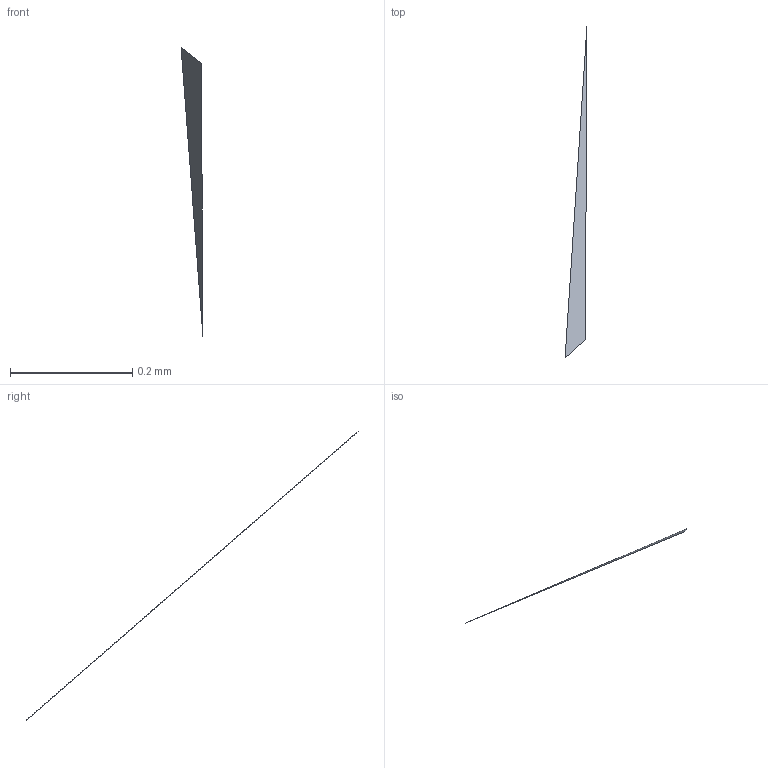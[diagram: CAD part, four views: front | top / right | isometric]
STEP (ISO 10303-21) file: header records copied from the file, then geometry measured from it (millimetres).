
FILE_DESCRIPTION(/* description */ ('STEP AP242 Edition 2','CAx-IF Rec.Pracs.---Representation and Presentation of Product Manufacturing Information (PMI)---4.0---2014-10-13','CAx-IF Rec.Pracs.---3D Tessellated Geometry---0.4---2014-09-14','2;1','CAx-IF Rec.Pracs.---User Defined Attributes---1.5---2016-08-15'),/* implementation_level */ '2;1');
FILE_NAME(/* name */ 'Assembly 1 - Part 108',/* time_stamp */ '2026-03-29T21:14:56Z',/* author */ (''),/* organization */ (''),/* preprocessor_version */ 'ST-DEVELOPER v20',/* originating_system */ 'ONSHAPE BY PTC INC, 1.212',/* authorisation */ ' ');
FILE_SCHEMA (('AP242_MANAGED_MODEL_BASED_3D_ENGINEERING_MIM_LF { 1 0 10303 442 3 1 4 }'));
Length unit declared in the file: metre
Products named in the file (1): Part 108
Bounding box: 0.04 x 0.54 x 0.47 mm (x, y, z)
Surface area: 0 mm2 (no closed solid volume)
Topology: 0 solids, 1 shells, 1 faces, 0 edges, 0 vertices
Faces by surface type: other 1
Entity records: 31 total; most frequent: DIRECTION 2, SHAPE_REPRESENTATION_RELATIONSHIP 1, TESSELLATED_SHAPE_REPRESENTATION 1, STYLED_ITEM 1, PRESENTATION_STYLE_ASSIGNMENT 1, SURFACE_STYLE_USAGE 1, SURFACE_SIDE_STYLE 1, SURFACE_STYLE_FILL_AREA 1
